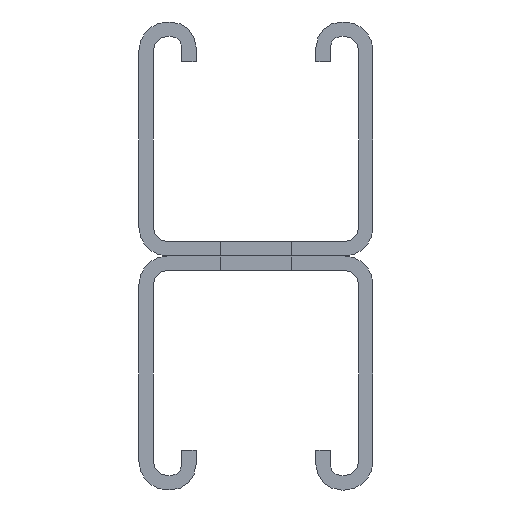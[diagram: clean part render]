
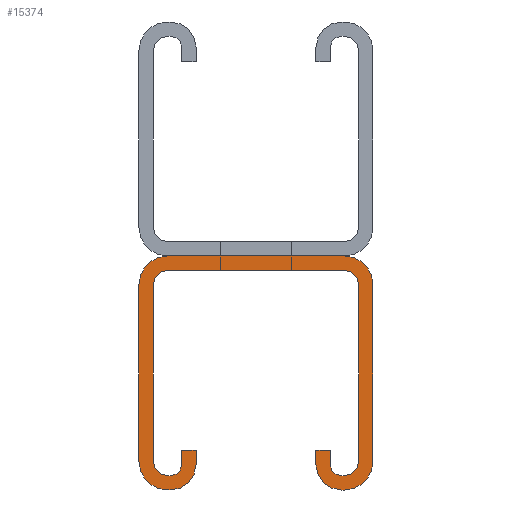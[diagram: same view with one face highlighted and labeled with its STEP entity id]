
A CAD part, front view. The second image highlights one B-rep face of the part: STEP entity #15374.
In plain terms, the highlighted planar face has unit normal (0, -1, 0).
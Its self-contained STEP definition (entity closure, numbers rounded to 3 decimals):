
#377=CIRCLE('',#16138,4.5);
#379=CIRCLE('',#16144,2.);
#381=CIRCLE('',#16148,2.5);
#383=CIRCLE('',#16152,2.5);
#561=CIRCLE('',#16332,2.5);
#563=CIRCLE('',#16336,2.5);
#565=CIRCLE('',#16340,2.);
#567=CIRCLE('',#16346,4.5);
#569=CIRCLE('',#16350,5.);
#571=CIRCLE('',#16354,5.);
#749=CIRCLE('',#16534,5.);
#751=CIRCLE('',#16538,5.);
#1546=FACE_OUTER_BOUND('',#2496,.T.);
#2496=EDGE_LOOP('',(#11209,#11210,#11211,#11212,#11213,#11214,#11215,#11216,
#11217,#11218,#11219,#11220,#11221,#11222,#11223,#11224,#11225,#11226,#11227,
#11228,#11229,#11230,#11231,#11232,#11233,#11234,#11235,#11236));
#3421=LINE('',#22298,#4965);
#3426=LINE('',#22312,#4970);
#3429=LINE('',#22318,#4973);
#3432=LINE('',#22324,#4976);
#3436=LINE('',#22336,#4980);
#3440=LINE('',#22348,#4984);
#3444=LINE('',#22360,#4988);
#3624=LINE('',#23076,#5168);
#3628=LINE('',#23088,#5172);
#3632=LINE('',#23100,#5176);
#3635=LINE('',#23106,#5179);
#3638=LINE('',#23112,#5182);
#3642=LINE('',#23124,#5186);
#3646=LINE('',#23136,#5190);
#3650=LINE('',#23148,#5194);
#3830=LINE('',#23864,#5374);
#4965=VECTOR('',#17688,10.);
#4970=VECTOR('',#17701,10.);
#4973=VECTOR('',#17706,10.);
#4976=VECTOR('',#17711,10.);
#4980=VECTOR('',#17723,10.);
#4984=VECTOR('',#17735,10.);
#4988=VECTOR('',#17747,10.);
#5168=VECTOR('',#18287,10.);
#5172=VECTOR('',#18299,10.);
#5176=VECTOR('',#18311,10.);
#5179=VECTOR('',#18316,10.);
#5182=VECTOR('',#18321,10.);
#5186=VECTOR('',#18333,10.);
#5190=VECTOR('',#18345,10.);
#5194=VECTOR('',#18357,10.);
#5374=VECTOR('',#18897,10.);
#6509=VERTEX_POINT('',#22296);
#6510=VERTEX_POINT('',#22297);
#6513=VERTEX_POINT('',#22305);
#6515=VERTEX_POINT('',#22311);
#6517=VERTEX_POINT('',#22317);
#6519=VERTEX_POINT('',#22323);
#6521=VERTEX_POINT('',#22329);
#6523=VERTEX_POINT('',#22335);
#6525=VERTEX_POINT('',#22341);
#6527=VERTEX_POINT('',#22347);
#6529=VERTEX_POINT('',#22353);
#6531=VERTEX_POINT('',#22359);
#6885=VERTEX_POINT('',#23069);
#6887=VERTEX_POINT('',#23075);
#6889=VERTEX_POINT('',#23081);
#6891=VERTEX_POINT('',#23087);
#6893=VERTEX_POINT('',#23093);
#6895=VERTEX_POINT('',#23099);
#6897=VERTEX_POINT('',#23105);
#6899=VERTEX_POINT('',#23111);
#6901=VERTEX_POINT('',#23117);
#6903=VERTEX_POINT('',#23123);
#6905=VERTEX_POINT('',#23129);
#6907=VERTEX_POINT('',#23135);
#6909=VERTEX_POINT('',#23141);
#6911=VERTEX_POINT('',#23147);
#7265=VERTEX_POINT('',#23857);
#7267=VERTEX_POINT('',#23863);
#8049=EDGE_CURVE('',#6509,#6510,#3421,.T.);
#8053=EDGE_CURVE('',#6513,#6510,#377,.T.);
#8056=EDGE_CURVE('',#6513,#6515,#3426,.T.);
#8059=EDGE_CURVE('',#6517,#6515,#3429,.T.);
#8062=EDGE_CURVE('',#6519,#6517,#3432,.T.);
#8065=EDGE_CURVE('',#6519,#6521,#379,.T.);
#8068=EDGE_CURVE('',#6523,#6521,#3436,.T.);
#8071=EDGE_CURVE('',#6523,#6525,#381,.T.);
#8074=EDGE_CURVE('',#6525,#6527,#3440,.T.);
#8077=EDGE_CURVE('',#6527,#6529,#383,.T.);
#8080=EDGE_CURVE('',#6529,#6531,#3444,.T.);
#8435=EDGE_CURVE('',#6531,#6885,#561,.T.);
#8438=EDGE_CURVE('',#6885,#6887,#3624,.T.);
#8441=EDGE_CURVE('',#6887,#6889,#563,.T.);
#8444=EDGE_CURVE('',#6889,#6891,#3628,.T.);
#8447=EDGE_CURVE('',#6891,#6893,#565,.T.);
#8450=EDGE_CURVE('',#6893,#6895,#3632,.T.);
#8453=EDGE_CURVE('',#6897,#6895,#3635,.T.);
#8456=EDGE_CURVE('',#6899,#6897,#3638,.T.);
#8459=EDGE_CURVE('',#6901,#6899,#567,.T.);
#8462=EDGE_CURVE('',#6903,#6901,#3642,.T.);
#8465=EDGE_CURVE('',#6905,#6903,#569,.T.);
#8468=EDGE_CURVE('',#6907,#6905,#3646,.T.);
#8471=EDGE_CURVE('',#6909,#6907,#571,.T.);
#8474=EDGE_CURVE('',#6911,#6909,#3650,.T.);
#8829=EDGE_CURVE('',#7265,#6911,#749,.T.);
#8832=EDGE_CURVE('',#7267,#7265,#3830,.T.);
#8835=EDGE_CURVE('',#6509,#7267,#751,.T.);
#11209=ORIENTED_EDGE('',*,*,#8835,.F.);
#11210=ORIENTED_EDGE('',*,*,#8049,.T.);
#11211=ORIENTED_EDGE('',*,*,#8053,.F.);
#11212=ORIENTED_EDGE('',*,*,#8056,.T.);
#11213=ORIENTED_EDGE('',*,*,#8059,.F.);
#11214=ORIENTED_EDGE('',*,*,#8062,.F.);
#11215=ORIENTED_EDGE('',*,*,#8065,.T.);
#11216=ORIENTED_EDGE('',*,*,#8068,.F.);
#11217=ORIENTED_EDGE('',*,*,#8071,.T.);
#11218=ORIENTED_EDGE('',*,*,#8074,.T.);
#11219=ORIENTED_EDGE('',*,*,#8077,.T.);
#11220=ORIENTED_EDGE('',*,*,#8080,.T.);
#11221=ORIENTED_EDGE('',*,*,#8435,.T.);
#11222=ORIENTED_EDGE('',*,*,#8438,.T.);
#11223=ORIENTED_EDGE('',*,*,#8441,.T.);
#11224=ORIENTED_EDGE('',*,*,#8444,.T.);
#11225=ORIENTED_EDGE('',*,*,#8447,.T.);
#11226=ORIENTED_EDGE('',*,*,#8450,.T.);
#11227=ORIENTED_EDGE('',*,*,#8453,.F.);
#11228=ORIENTED_EDGE('',*,*,#8456,.F.);
#11229=ORIENTED_EDGE('',*,*,#8459,.F.);
#11230=ORIENTED_EDGE('',*,*,#8462,.F.);
#11231=ORIENTED_EDGE('',*,*,#8465,.F.);
#11232=ORIENTED_EDGE('',*,*,#8468,.F.);
#11233=ORIENTED_EDGE('',*,*,#8471,.F.);
#11234=ORIENTED_EDGE('',*,*,#8474,.F.);
#11235=ORIENTED_EDGE('',*,*,#8829,.F.);
#11236=ORIENTED_EDGE('',*,*,#8832,.F.);
#14968=PLANE('',#16541);
#15374=ADVANCED_FACE('',(#1546),#14968,.F.);
#16138=AXIS2_PLACEMENT_3D('',#22306,#17694,#17695);
#16144=AXIS2_PLACEMENT_3D('',#22330,#17716,#17717);
#16148=AXIS2_PLACEMENT_3D('',#22342,#17728,#17729);
#16152=AXIS2_PLACEMENT_3D('',#22354,#17740,#17741);
#16332=AXIS2_PLACEMENT_3D('',#23070,#18280,#18281);
#16336=AXIS2_PLACEMENT_3D('',#23082,#18292,#18293);
#16340=AXIS2_PLACEMENT_3D('',#23094,#18304,#18305);
#16346=AXIS2_PLACEMENT_3D('',#23118,#18326,#18327);
#16350=AXIS2_PLACEMENT_3D('',#23130,#18338,#18339);
#16354=AXIS2_PLACEMENT_3D('',#23142,#18350,#18351);
#16534=AXIS2_PLACEMENT_3D('',#23858,#18890,#18891);
#16538=AXIS2_PLACEMENT_3D('',#23869,#18902,#18903);
#16541=AXIS2_PLACEMENT_3D('',#23872,#18908,#18909);
#17688=DIRECTION('',(1.,0.,0.));
#17694=DIRECTION('center_axis',(0.,1.,0.));
#17695=DIRECTION('ref_axis',(1.,0.,0.));
#17701=DIRECTION('',(0.,0.,1.));
#17706=DIRECTION('',(1.,0.,0.));
#17711=DIRECTION('',(0.,0.,1.));
#17716=DIRECTION('center_axis',(0.,1.,0.));
#17717=DIRECTION('ref_axis',(1.,0.,0.));
#17723=DIRECTION('',(1.,0.,0.));
#17728=DIRECTION('center_axis',(0.,1.,0.));
#17729=DIRECTION('ref_axis',(0.,0.,-1.));
#17735=DIRECTION('',(0.,0.,1.));
#17740=DIRECTION('center_axis',(0.,1.,0.));
#17741=DIRECTION('ref_axis',(-1.,0.,0.));
#17747=DIRECTION('',(1.,0.,0.));
#18280=DIRECTION('center_axis',(0.,1.,0.));
#18281=DIRECTION('ref_axis',(0.,0.,1.));
#18287=DIRECTION('',(0.,0.,-1.));
#18292=DIRECTION('center_axis',(0.,1.,0.));
#18293=DIRECTION('ref_axis',(1.,0.,0.));
#18299=DIRECTION('',(-1.,0.,0.));
#18304=DIRECTION('center_axis',(0.,1.,0.));
#18305=DIRECTION('ref_axis',(0.,0.,-1.));
#18311=DIRECTION('',(0.,0.,1.));
#18316=DIRECTION('',(1.,0.,0.));
#18321=DIRECTION('',(0.,0.,1.));
#18326=DIRECTION('center_axis',(0.,1.,0.));
#18327=DIRECTION('ref_axis',(0.,0.,-1.));
#18333=DIRECTION('',(-1.,0.,0.));
#18338=DIRECTION('center_axis',(0.,1.,0.));
#18339=DIRECTION('ref_axis',(1.,0.,0.));
#18345=DIRECTION('',(0.,0.,-1.));
#18350=DIRECTION('center_axis',(0.,1.,0.));
#18351=DIRECTION('ref_axis',(0.,0.,1.));
#18357=DIRECTION('',(1.,0.,0.));
#18890=DIRECTION('center_axis',(0.,1.,0.));
#18891=DIRECTION('ref_axis',(-1.,0.,0.));
#18897=DIRECTION('',(0.,0.,1.));
#18902=DIRECTION('center_axis',(0.,1.,0.));
#18903=DIRECTION('ref_axis',(0.,0.,-1.));
#18908=DIRECTION('center_axis',(0.,1.,0.));
#18909=DIRECTION('ref_axis',(1.,0.,0.));
#22296=CARTESIAN_POINT('',(5.,0.,0.));
#22297=CARTESIAN_POINT('',(5.5,0.,0.));
#22298=CARTESIAN_POINT('',(5.,0.,0.));
#22305=CARTESIAN_POINT('',(10.,0.,4.5));
#22306=CARTESIAN_POINT('Origin',(5.5,0.,4.5));
#22311=CARTESIAN_POINT('',(10.,0.,7.));
#22312=CARTESIAN_POINT('',(10.,0.,4.5));
#22317=CARTESIAN_POINT('',(7.5,0.,7.));
#22318=CARTESIAN_POINT('',(7.5,0.,7.));
#22323=CARTESIAN_POINT('',(7.5,0.,4.5));
#22324=CARTESIAN_POINT('',(7.5,0.,4.5));
#22329=CARTESIAN_POINT('',(5.5,0.,2.5));
#22330=CARTESIAN_POINT('Origin',(5.5,0.,4.5));
#22335=CARTESIAN_POINT('',(5.,0.,2.5));
#22336=CARTESIAN_POINT('',(5.,0.,2.5));
#22341=CARTESIAN_POINT('',(2.5,0.,5.));
#22342=CARTESIAN_POINT('Origin',(5.,0.,5.));
#22347=CARTESIAN_POINT('',(2.5,0.,36.));
#22348=CARTESIAN_POINT('',(2.5,0.,5.));
#22353=CARTESIAN_POINT('',(5.,0.,38.5));
#22354=CARTESIAN_POINT('Origin',(5.,0.,36.));
#22359=CARTESIAN_POINT('',(36.,0.,38.5));
#22360=CARTESIAN_POINT('',(5.,0.,38.5));
#23069=CARTESIAN_POINT('',(38.5,0.,36.));
#23070=CARTESIAN_POINT('Origin',(36.,0.,36.));
#23075=CARTESIAN_POINT('',(38.5,0.,5.));
#23076=CARTESIAN_POINT('',(38.5,0.,36.));
#23081=CARTESIAN_POINT('',(36.,0.,2.5));
#23082=CARTESIAN_POINT('Origin',(36.,0.,5.));
#23087=CARTESIAN_POINT('',(35.499,0.,2.5));
#23088=CARTESIAN_POINT('',(36.,0.,2.5));
#23093=CARTESIAN_POINT('',(33.5,0.,4.431));
#23094=CARTESIAN_POINT('Origin',(35.499,0.,4.5));
#23099=CARTESIAN_POINT('',(33.5,0.,7.));
#23100=CARTESIAN_POINT('',(33.5,0.,4.431));
#23105=CARTESIAN_POINT('',(31.,0.,7.));
#23106=CARTESIAN_POINT('',(31.,0.,7.));
#23111=CARTESIAN_POINT('',(31.,0.,4.396));
#23112=CARTESIAN_POINT('',(31.,0.,4.396));
#23117=CARTESIAN_POINT('',(35.499,0.,0.));
#23118=CARTESIAN_POINT('Origin',(35.499,0.,4.5));
#23123=CARTESIAN_POINT('',(36.,0.,0.));
#23124=CARTESIAN_POINT('',(36.,0.,0.));
#23129=CARTESIAN_POINT('',(41.,0.,5.));
#23130=CARTESIAN_POINT('Origin',(36.,0.,5.));
#23135=CARTESIAN_POINT('',(41.,0.,36.));
#23136=CARTESIAN_POINT('',(41.,0.,36.));
#23141=CARTESIAN_POINT('',(36.,0.,41.));
#23142=CARTESIAN_POINT('Origin',(36.,0.,36.));
#23147=CARTESIAN_POINT('',(5.,0.,41.));
#23148=CARTESIAN_POINT('',(5.,0.,41.));
#23857=CARTESIAN_POINT('',(0.,0.,36.));
#23858=CARTESIAN_POINT('Origin',(5.,0.,36.));
#23863=CARTESIAN_POINT('',(0.,0.,5.));
#23864=CARTESIAN_POINT('',(0.,0.,5.));
#23869=CARTESIAN_POINT('Origin',(5.,0.,5.));
#23872=CARTESIAN_POINT('Origin',(20.5,0.,20.5));
